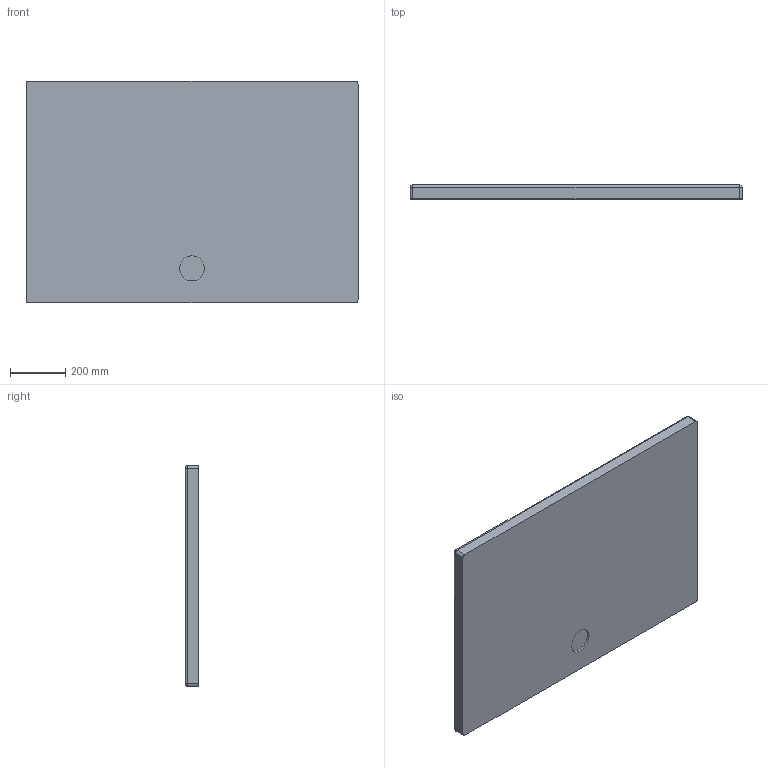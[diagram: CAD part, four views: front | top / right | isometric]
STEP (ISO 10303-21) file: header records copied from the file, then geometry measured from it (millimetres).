
FILE_DESCRIPTION(/* description */ (''),/* implementation_level */ '2;1');
FILE_NAME(/* name */ 'c:\worker\convert-fusion-r09\tmp\job-1\63\output\files\1fe3e205-9090-4c87-9dfe-40ee7e395030\c881ed1b-ba13-4045-8137-ab44bf0a0e90.stp',/* time_stamp */ '2020-01-03T09:02:08+00:00',/* author */ (''),/* organization */ (''),/* preprocessor_version */ 'ST-DEVELOPER v18',/* originating_system */ 'Autodesk Translation Framework v8.12.0.6',/* authorisation */ '');
FILE_SCHEMA (('AUTOMOTIVE_DESIGN { 1 0 10303 214 3 1 1 }'));
Length unit declared in the file: millimetre
Products named in the file (1): Brooklyn 80-100P
Bounding box: 1200 x 50 x 800 mm (x, y, z)
Volume: 28448081.4 mm3; surface area: 2212977.5 mm2
Topology: 2 solids, 2 shells, 104 faces, 220 edges, 122 vertices
Faces by surface type: cylinder 47, plane 27, sphere 16, torus 9, bspline 4, cone 1
Full cylindrical faces by diameter (mm): 5 x4, 90 x1
Entity records: 2983 total; most frequent: CARTESIAN_POINT 679, DIRECTION 531, ORIENTED_EDGE 432, EDGE_CURVE 216, AXIS2_PLACEMENT_3D 216, VERTEX_POINT 122, EDGE_LOOP 112, CIRCLE 107
